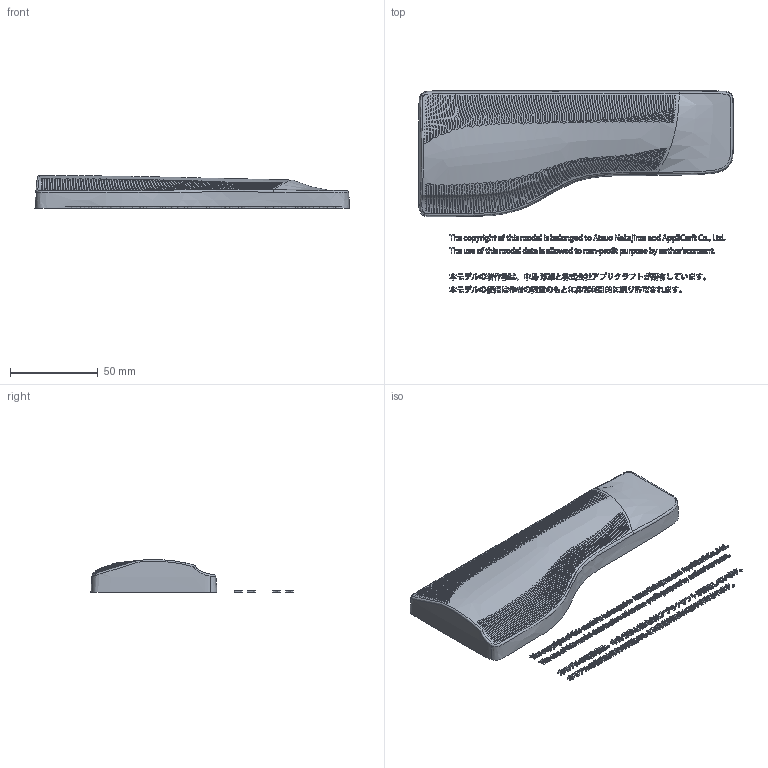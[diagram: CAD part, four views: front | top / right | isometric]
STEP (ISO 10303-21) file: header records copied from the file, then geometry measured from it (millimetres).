
FILE_DESCRIPTION(/* description */ (''),/* implementation_level */ '2;1');
FILE_NAME(/* name */ 'GRADAT~1',/* time_stamp */ '2018-03-05T14:01:47+09:00',/* author */ (''),/* organization */ (''),/* preprocessor_version */ 'ST-DEVELOPER v15',/* originating_system */ '',/* authorisation */ '');
FILE_SCHEMA (('AUTOMOTIVE_DESIGN'));
Products named in the file (1): Document
Bounding box: 179.72 x 115.5 x 18.73 mm (x, y, z)
Volume: 149465.8 mm3; surface area: 30449.6 mm2
Topology: 271 solids, 271 shells, 11437 faces, 24982 edges, 14089 vertices
Faces by surface type: bspline 9200, plane 2237
Entity records: 299191 total; most frequent: CARTESIAN_POINT 130859, ORIENTED_EDGE 50222, EDGE_CURVE 25111, B_SPLINE_CURVE_WITH_KNOTS 25111, VERTEX_POINT 14218, EDGE_LOOP 11659, ADVANCED_FACE 11437, FACE_OUTER_BOUND 11437
